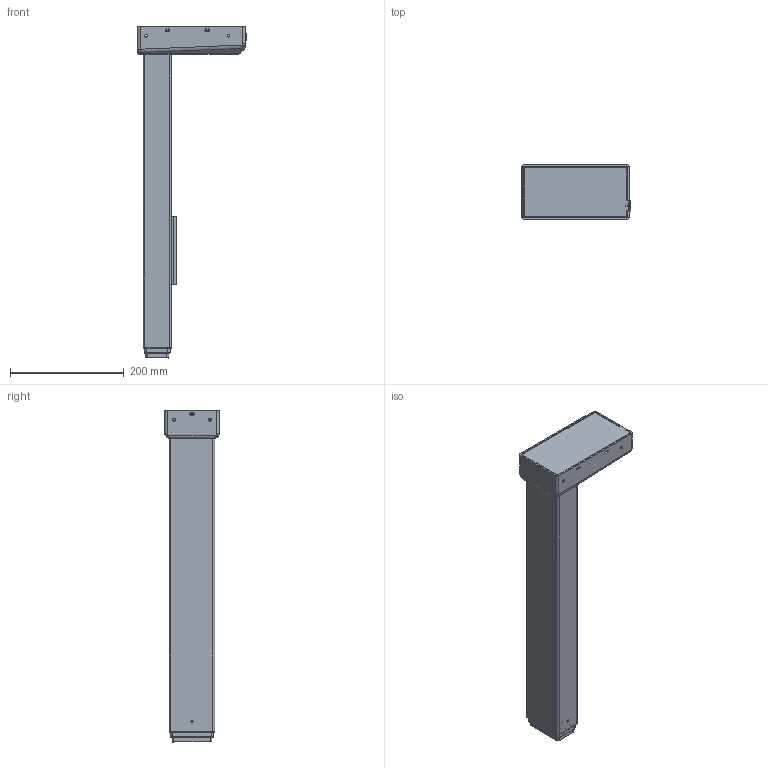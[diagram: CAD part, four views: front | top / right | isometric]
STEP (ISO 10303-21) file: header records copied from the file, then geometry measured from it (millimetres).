
FILE_DESCRIPTION(/* description */ ('Unknown'),/* implementation_level */ '2;1');
FILE_NAME(/* name */ '804.00047_00-eingefahren',/* time_stamp */ '2026-07-29T14:13:17+02:00',/* author */ ('Unknown'),/* organization */ ('Unknown'),/* preprocessor_version */ 'ST-DEVELOPER v20',/* originating_system */ 'Solid Edge',/* authorisation */ 'Unknown');
FILE_SCHEMA (('AP203_CONFIGURATION_CONTROLLED_3D_DESIGN_OF_MECHANICAL_PARTS_AND_ASSEMBLIES_MIM_LF { 1 0 10303 203 3 1 4 }','AUTOMOTIVE_DESIGN {1 0 10303 214 3 1 1}'));
Length unit declared in the file: millimetre
Products named in the file (4): 804.00047; EBI Mittelprofil; EBI Innenprofil; EBI S Aussenprofil
Assembly tree (3 placements, depth 2):
  804.00047
    EBI Mittelprofil
    EBI Innenprofil
    EBI S Aussenprofil
Bounding box: 192.25 x 96 x 585 mm (x, y, z)
Volume: 682477.4 mm3; surface area: 833990.9 mm2
Topology: 5 solids, 5 shells, 938 faces, 2728 edges, 1800 vertices
Faces by surface type: plane 558, cylinder 282, cone 26, sphere 24, torus 24, bspline 24
Full cylindrical faces by diameter (mm): 4.5 x4, 5 x10, 5.6 x16, 6 x1, 6.8 x2, 7.2 x6
Entity records: 39163 total; most frequent: CARTESIAN_POINT 7500, ORIENTED_EDGE 5448, DIRECTION 4988, EDGE_CURVE 2724, VERTEX_POINT 1800, LINE 1768, VECTOR 1768, AXIS2_PLACEMENT_3D 1610
